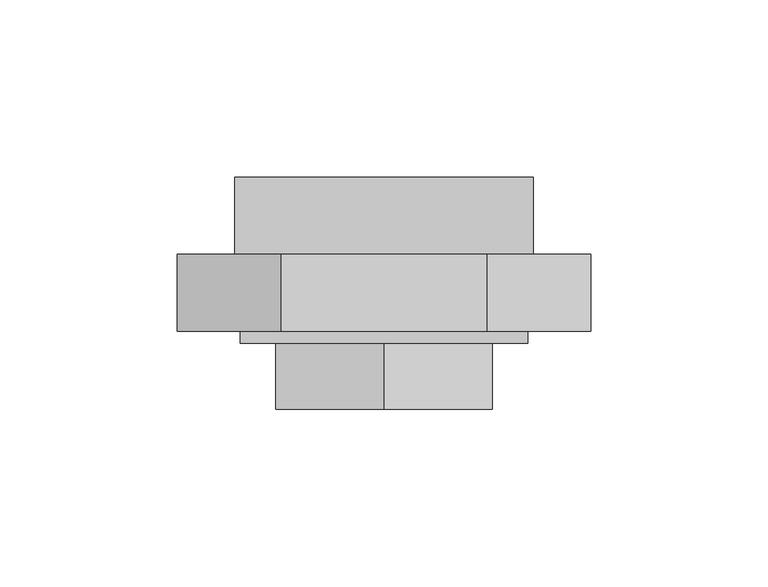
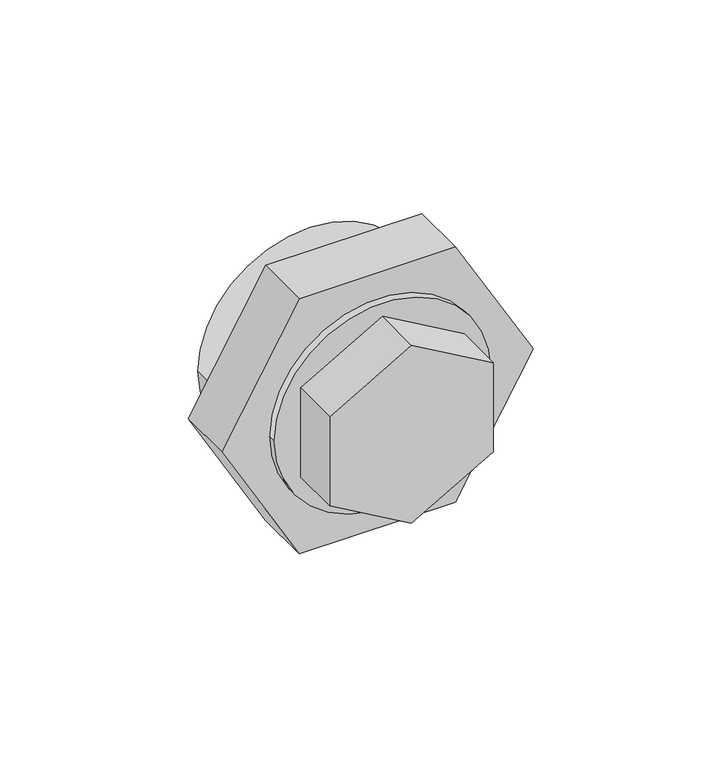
"""IFC4 building model written with IfcOpenShell, lengths in millimetres: pipe fitting geometry, EGB_VASEN_ PPR_Enlace desmontable rosca hembra WXR104 : Enlace desmontable rosca hembra WXR104."""

from ifc_helpers import new_model, si_unit, point, frame, origin, origin_2d, place, context, project, spatial, polyline, circle_curve, trimmed, segment, composite_curve, outline, extrude, source, transform, mapped, element, save


def pipe_fitting_51a37056(model_context):
    return source(origin(), model_context, "Body", "SweptSolid", [
        extrude(outline(polyline([(-17.5976362, -30.48), (-35.1952724, 0.0), (-17.5976362, 30.48), (17.5976362, 30.48), (35.1952724, 0.0), (17.5976362, -30.48), (-17.5976362, -30.48)])), frame((0.0, -43.0879167, 0.0), z_axis=(0.0, 1.0, 0.0), x_axis=(0.0, 0.0, 1.0)), (0.0, 0.0, 1.0), 18.6666667),
        extrude(outline(polyline([(0.0, 58.1969071), (50.4, 29.0984536), (50.4, -29.0984536), (0.0, -58.1969071), (-50.4, -29.0984536), (-50.4, 29.0984536), (0.0, 58.1969071)])), frame((0.0, -21.05375, 0.0), z_axis=(0.0, 1.0, 0.0), x_axis=(0.0, 0.0, 1.0)), (0.0, 0.0, 1.0), 21.6666667),
        extrude(outline(composite_curve([segment(trimmed(circle_curve(origin_2d(), 40.44), [point((0.0, -40.44))], [point((0.0, 40.44))], False, "CARTESIAN"), True, "CONTINUOUS"), segment(trimmed(circle_curve(origin_2d(), 40.44), [point((0.0, 40.44))], [point((0.0, -40.44))], False, "CARTESIAN"), True, "CONTINUOUS")], self_intersect=False)), frame((0.0, -24.42125, 0.0), z_axis=(0.0, 1.0, 0.0), x_axis=(0.0, 0.0, 1.0)), (0.0, 0.0, 1.0), 3.3675),
        extrude(outline(composite_curve([segment(trimmed(circle_curve(origin_2d(), 42.0), [point((0.0, -42.0))], [point((0.0, 42.0))], False, "CARTESIAN"), True, "CONTINUOUS"), segment(trimmed(circle_curve(origin_2d(), 42.0), [point((0.0, 42.0))], [point((0.0, -42.0))], False, "CARTESIAN"), True, "CONTINUOUS")], self_intersect=False), holes=[composite_curve([segment(trimmed(circle_curve(origin_2d(), 31.5), [point((0.0, -31.5))], [point((0.0, 31.5))], True, "CARTESIAN"), True, "CONTINUOUS"), segment(trimmed(circle_curve(origin_2d(), 31.5), [point((0.0, 31.5))], [point((0.0, -31.5))], True, "CARTESIAN"), True, "CONTINUOUS")], self_intersect=False)]), frame((0.0, 0.6129167, 0.0), z_axis=(0.0, 1.0, 0.0), x_axis=(0.0, 0.0, 1.0)), (0.0, 0.0, 1.0), 21.6666667),
    ])


if __name__ == "__main__":
    model = new_model("IFC4")
    model_context = context("Model", 3, world=origin())
    ifc_project = project(units=[si_unit("LENGTHUNIT", "METRE", prefix="MILLI")], contexts=[model_context])
    site = spatial("IfcSite", under=ifc_project)
    building = spatial("IfcBuilding", under=site)
    placement = place(None, origin())
    pipe_fitting_shape = pipe_fitting_51a37056(model_context)
    element("IfcPipeFitting", 1, ObjectType="EGB_VASEN_ PPR_Enlace desmontable rosca hembra WXR104 : Enlace desmontable rosca hembra WXR104", at=placement, inside=building, context=model_context, shape_type="MappedRepresentation", body=[
        mapped(pipe_fitting_shape, transform((0.0, 0.0, 0.0), x_axis=(1.0, 0.0, 0.0), y_axis=(0.0, 1.0, 0.0), z_axis=(0.0, 0.0, 1.0))),
    ])
    save(model, "model.ifc")
